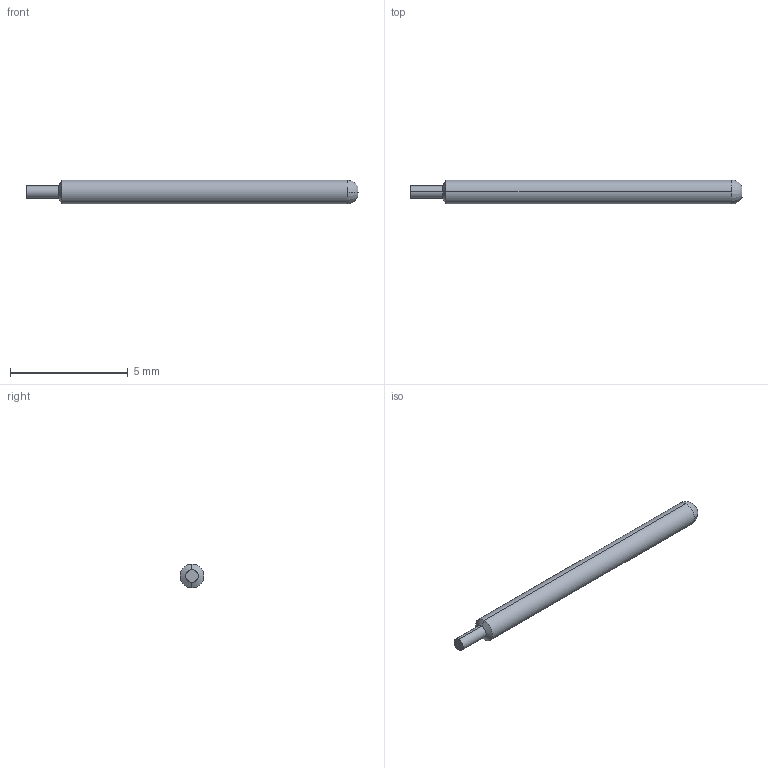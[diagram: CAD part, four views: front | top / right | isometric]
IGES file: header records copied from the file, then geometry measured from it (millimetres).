
Start section: SolidWorks IGES file using analytic representation for surfaces
Global section: file name: Z:\probe solid model mockups\Solidworks models\IGES Files\HPA-1\HPA-1C Full.IGS; native system: SolidWorks 2006 by SolidWorks Corporation; preprocessor: SolidWorks 2006 by SolidWorks Corporation; author: tsakatani; date: 071220.111805; units: inch
Bounding box: 14.1 x 1.02 x 1.02 mm (x, y, z)
Surface area: 43.5 mm2 (no closed solid volume)
Topology: 0 solids, 0 shells, 10 faces, 68 edges, 68 vertices
Faces by surface type: revolution 8, bspline 2
